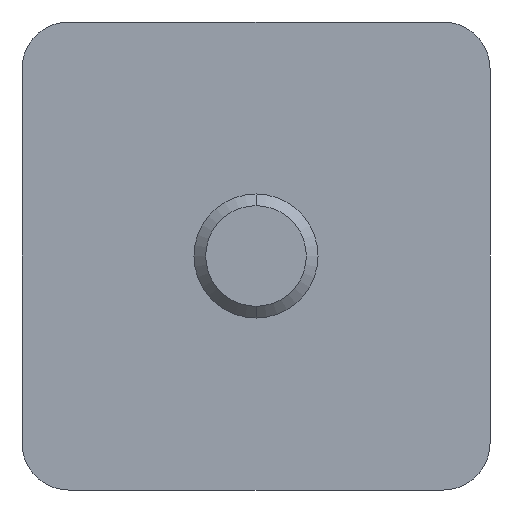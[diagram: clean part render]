
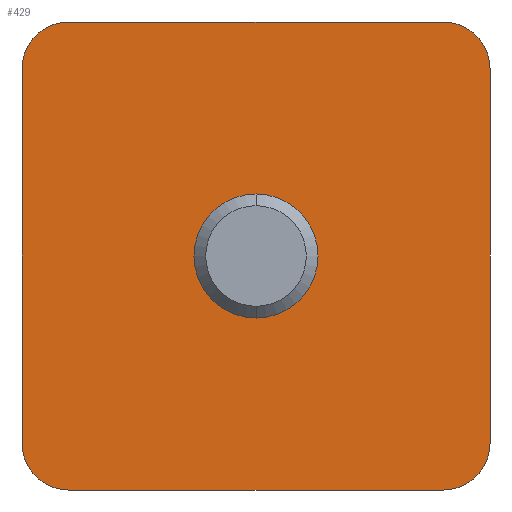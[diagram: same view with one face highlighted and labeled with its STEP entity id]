
A CAD part, front view. The second image highlights one B-rep face of the part: STEP entity #429.
In plain terms, the highlighted planar face has unit normal (0, -1, 0).
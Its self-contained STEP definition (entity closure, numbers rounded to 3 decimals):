
#6 = DIRECTION ( 'NONE',  ( 0., 0., -1. ) ) ;
#7 = CIRCLE ( 'NONE', #517, 2. ) ;
#16 = CARTESIAN_POINT ( 'NONE',  ( -10., 0., -8. ) ) ;
#25 = AXIS2_PLACEMENT_3D ( 'NONE', #158, #280, #372 ) ;
#59 = CARTESIAN_POINT ( 'NONE',  ( 0., 0., -2.65 ) ) ;
#71 = FACE_BOUND ( 'NONE', #180, .T. ) ;
#92 = VERTEX_POINT ( 'NONE', #701 ) ;
#94 = DIRECTION ( 'NONE',  ( 0., 0., 1. ) ) ;
#112 = VERTEX_POINT ( 'NONE', #315 ) ;
#115 = VECTOR ( 'NONE', #241, 1000. ) ;
#121 = CARTESIAN_POINT ( 'NONE',  ( 0., 0., 0. ) ) ;
#125 = DIRECTION ( 'NONE',  ( 0., 1., 0. ) ) ;
#136 = ORIENTED_EDGE ( 'NONE', *, *, #551, .T. ) ;
#137 = CARTESIAN_POINT ( 'NONE',  ( 0., 0., -10. ) ) ;
#158 = CARTESIAN_POINT ( 'NONE',  ( 0., 0., 0. ) ) ;
#168 = VERTEX_POINT ( 'NONE', #473 ) ;
#171 = AXIS2_PLACEMENT_3D ( 'NONE', #491, #545, #94 ) ;
#172 = EDGE_CURVE ( 'NONE', #711, #352, #577, .T. ) ;
#180 = EDGE_LOOP ( 'NONE', ( #309, #182 ) ) ;
#182 = ORIENTED_EDGE ( 'NONE', *, *, #598, .T. ) ;
#183 = DIRECTION ( 'NONE',  ( 0., 0., 1. ) ) ;
#192 = EDGE_CURVE ( 'NONE', #92, #112, #203, .T. ) ;
#203 = LINE ( 'NONE', #205, #404 ) ;
#205 = CARTESIAN_POINT ( 'NONE',  ( 10., 0., 0. ) ) ;
#226 = VERTEX_POINT ( 'NONE', #709 ) ;
#240 = CARTESIAN_POINT ( 'NONE',  ( 8., 0., -8. ) ) ;
#241 = DIRECTION ( 'NONE',  ( 1., 0., 0. ) ) ;
#243 = AXIS2_PLACEMENT_3D ( 'NONE', #410, #408, #183 ) ;
#244 = VECTOR ( 'NONE', #6, 1000. ) ;
#245 = VERTEX_POINT ( 'NONE', #544 ) ;
#260 = EDGE_CURVE ( 'NONE', #92, #168, #335, .T. ) ;
#272 = ORIENTED_EDGE ( 'NONE', *, *, #635, .F. ) ;
#276 = LINE ( 'NONE', #511, #115 ) ;
#280 = DIRECTION ( 'NONE',  ( 0., 1., 0. ) ) ;
#290 = ORIENTED_EDGE ( 'NONE', *, *, #260, .T. ) ;
#302 = CARTESIAN_POINT ( 'NONE',  ( -8., 0., -10. ) ) ;
#306 = VECTOR ( 'NONE', #523, 1000. ) ;
#309 = ORIENTED_EDGE ( 'NONE', *, *, #172, .T. ) ;
#315 = CARTESIAN_POINT ( 'NONE',  ( 10., 0., -8. ) ) ;
#331 = ORIENTED_EDGE ( 'NONE', *, *, #690, .T. ) ;
#335 = CIRCLE ( 'NONE', #171, 2. ) ;
#342 = EDGE_CURVE ( 'NONE', #226, #459, #396, .T. ) ;
#351 = CARTESIAN_POINT ( 'NONE',  ( -10., 0., 0. ) ) ;
#352 = VERTEX_POINT ( 'NONE', #59 ) ;
#367 = CARTESIAN_POINT ( 'NONE',  ( 0., 0., 2.65 ) ) ;
#372 = DIRECTION ( 'NONE',  ( 0., 0., 1. ) ) ;
#396 = LINE ( 'NONE', #351, #244 ) ;
#404 = VECTOR ( 'NONE', #489, 1000. ) ;
#408 = DIRECTION ( 'NONE',  ( 0., -1., 0. ) ) ;
#410 = CARTESIAN_POINT ( 'NONE',  ( -8., 0., 8. ) ) ;
#413 = DIRECTION ( 'NONE',  ( 0., 0., 1. ) ) ;
#418 = DIRECTION ( 'NONE',  ( 0., 0., 1. ) ) ;
#419 = ORIENTED_EDGE ( 'NONE', *, *, #609, .T. ) ;
#428 = EDGE_CURVE ( 'NONE', #459, #450, #503, .T. ) ;
#429 = ADVANCED_FACE ( 'NONE', ( #71, #533 ), #513, .F. ) ;
#439 = VERTEX_POINT ( 'NONE', #582 ) ;
#450 = VERTEX_POINT ( 'NONE', #302 ) ;
#452 = CIRCLE ( 'NONE', #586, 2.65 ) ;
#459 = VERTEX_POINT ( 'NONE', #16 ) ;
#473 = CARTESIAN_POINT ( 'NONE',  ( 8., 0., 10. ) ) ;
#489 = DIRECTION ( 'NONE',  ( 0., 0., -1. ) ) ;
#491 = CARTESIAN_POINT ( 'NONE',  ( 8., 0., 8. ) ) ;
#496 = ORIENTED_EDGE ( 'NONE', *, *, #342, .T. ) ;
#503 = CIRCLE ( 'NONE', #548, 2. ) ;
#511 = CARTESIAN_POINT ( 'NONE',  ( 0., 0., 10. ) ) ;
#513 = PLANE ( 'NONE',  #631 ) ;
#517 = AXIS2_PLACEMENT_3D ( 'NONE', #240, #684, #413 ) ;
#519 = LINE ( 'NONE', #137, #306 ) ;
#522 = DIRECTION ( 'NONE',  ( 0., 0., 1. ) ) ;
#523 = DIRECTION ( 'NONE',  ( 1., 0., 0. ) ) ;
#533 = FACE_OUTER_BOUND ( 'NONE', #549, .T. ) ;
#544 = CARTESIAN_POINT ( 'NONE',  ( -8., 0., 10. ) ) ;
#545 = DIRECTION ( 'NONE',  ( 0., -1., 0. ) ) ;
#548 = AXIS2_PLACEMENT_3D ( 'NONE', #572, #626, #418 ) ;
#549 = EDGE_LOOP ( 'NONE', ( #272, #419, #496, #603, #331, #136, #664, #290 ) ) ;
#551 = EDGE_CURVE ( 'NONE', #439, #112, #7, .T. ) ;
#572 = CARTESIAN_POINT ( 'NONE',  ( -8., 0., -8. ) ) ;
#577 = CIRCLE ( 'NONE', #25, 2.65 ) ;
#582 = CARTESIAN_POINT ( 'NONE',  ( 8., 0., -10. ) ) ;
#586 = AXIS2_PLACEMENT_3D ( 'NONE', #121, #125, #620 ) ;
#598 = EDGE_CURVE ( 'NONE', #352, #711, #452, .T. ) ;
#603 = ORIENTED_EDGE ( 'NONE', *, *, #428, .T. ) ;
#609 = EDGE_CURVE ( 'NONE', #245, #226, #670, .T. ) ;
#620 = DIRECTION ( 'NONE',  ( 0., 0., 1. ) ) ;
#626 = DIRECTION ( 'NONE',  ( 0., -1., 0. ) ) ;
#631 = AXIS2_PLACEMENT_3D ( 'NONE', #726, #632, #522 ) ;
#632 = DIRECTION ( 'NONE',  ( 0., 1., 0. ) ) ;
#635 = EDGE_CURVE ( 'NONE', #245, #168, #276, .T. ) ;
#664 = ORIENTED_EDGE ( 'NONE', *, *, #192, .F. ) ;
#670 = CIRCLE ( 'NONE', #243, 2. ) ;
#684 = DIRECTION ( 'NONE',  ( 0., -1., 0. ) ) ;
#690 = EDGE_CURVE ( 'NONE', #450, #439, #519, .T. ) ;
#701 = CARTESIAN_POINT ( 'NONE',  ( 10., 0., 8. ) ) ;
#709 = CARTESIAN_POINT ( 'NONE',  ( -10., 0., 8. ) ) ;
#711 = VERTEX_POINT ( 'NONE', #367 ) ;
#726 = CARTESIAN_POINT ( 'NONE',  ( 0., 0., 0. ) ) ;
